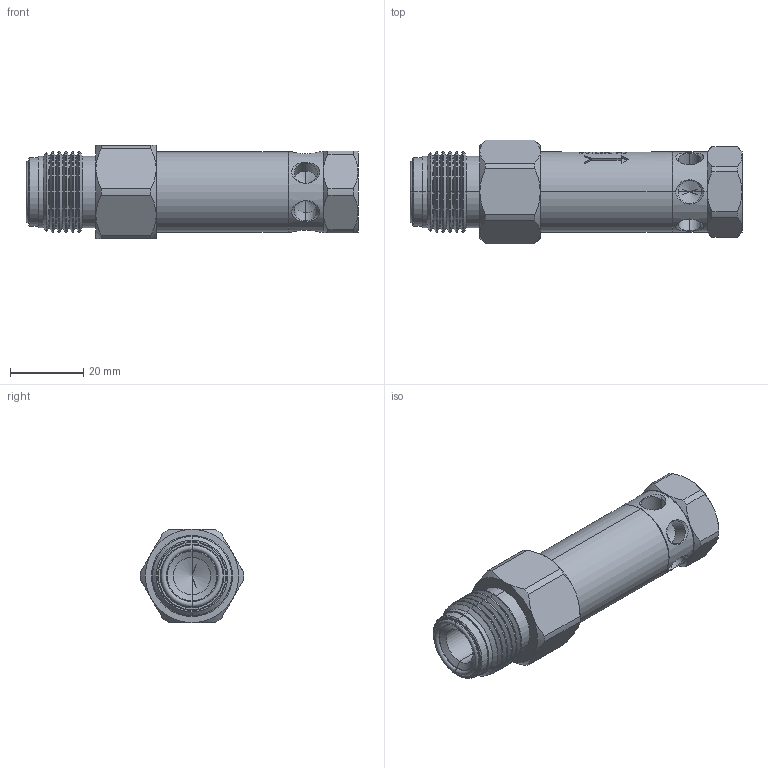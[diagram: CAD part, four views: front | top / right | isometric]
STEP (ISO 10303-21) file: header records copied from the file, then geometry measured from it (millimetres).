
FILE_DESCRIPTION (( 'STEP AP203' ), '1' );
FILE_NAME ('IRVD-8V.STEP', '2020-08-13T13:04:10', ( '' ), ( '' ), 'SwSTEP 2.0', 'SolidWorks 2020', '' );
FILE_SCHEMA (( 'CONFIG_CONTROL_DESIGN' ));
Length unit declared in the file: inch
Products named in the file (2): Part22^IRVD-8V; IRVD-8V
Assembly tree (1 placements, depth 2):
  IRVD-8V
    Part22^IRVD-8V
Bounding box: 90.46 x 28.31 x 25.4 mm (x, y, z)
Volume: 33955.3 mm3; surface area: 9090.3 mm2
Topology: 1 solids, 1 shells, 383 faces, 954 edges, 593 vertices
Faces by surface type: plane 150, cone 80, cylinder 79, bspline 70, torus 4
Entity records: 16543 total; most frequent: CARTESIAN_POINT 7887, ORIENTED_EDGE 1880, DIRECTION 1552, EDGE_CURVE 940, AXIS2_PLACEMENT_3D 593, VERTEX_POINT 593, EDGE_LOOP 417, FACE_OUTER_BOUND 383
